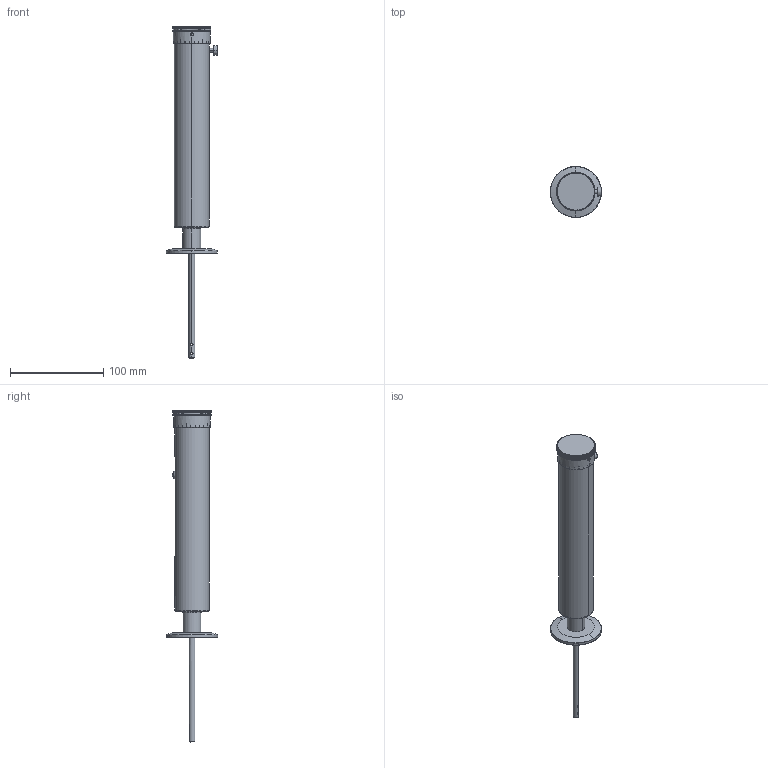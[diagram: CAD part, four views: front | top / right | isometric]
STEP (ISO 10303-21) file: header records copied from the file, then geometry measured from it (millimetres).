
FILE_DESCRIPTION (( 'STEP AP203' ), '1' );
FILE_NAME ('113081.stp', '2018-10-25T18:13:42', ( '' ), ( '' ), 'SwSTEP 2.0', 'SolidWorks 2012', '' );
FILE_SCHEMA (( 'CONFIG_CONTROL_DESIGN' ));
Length unit declared in the file: centimetre
Products named in the file (1): 113081
Bounding box: 55.32 x 54.86 x 356.74 mm (x, y, z)
Volume: 260066 mm3; surface area: 38393.5 mm2
Topology: 1 solids, 1 shells, 876 faces, 2449 edges, 1615 vertices
Faces by surface type: plane 448, cylinder 229, bspline 166, cone 33
Entity records: 53254 total; most frequent: CARTESIAN_POINT 32631, ORIENTED_EDGE 4898, DIRECTION 3429, EDGE_CURVE 2449, VERTEX_POINT 1615, AXIS2_PLACEMENT_3D 1263, B_SPLINE_CURVE_WITH_KNOTS 954, EDGE_LOOP 920
